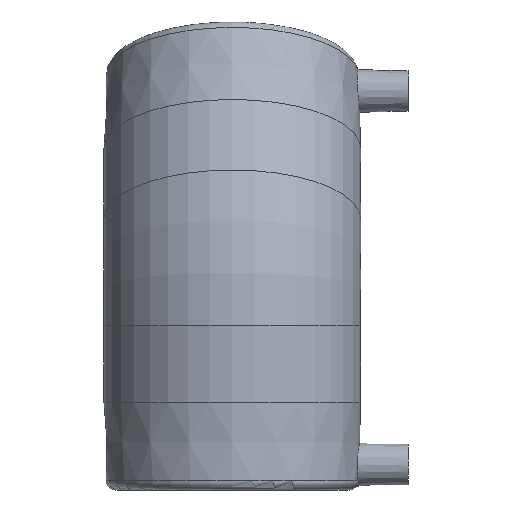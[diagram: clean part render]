
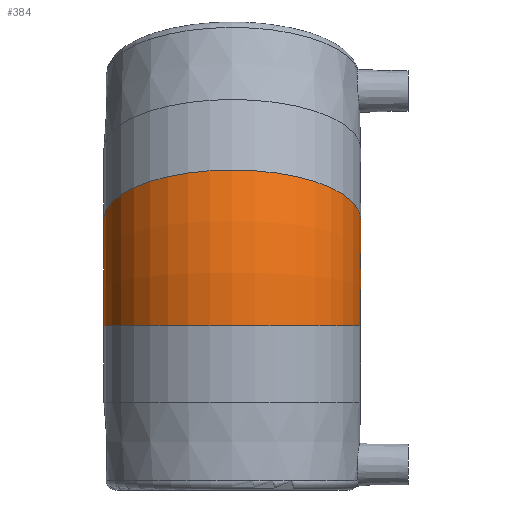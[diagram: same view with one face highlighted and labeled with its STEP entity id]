
A CAD part, left-side view. The second image highlights one B-rep face of the part: STEP entity #384.
In plain terms, the highlighted toroidal (fillet/blend) face has major radius 120.656 mm and minor radius 55.5 mm.
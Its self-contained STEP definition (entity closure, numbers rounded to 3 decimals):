
#37=TOROIDAL_SURFACE('',#447,120.656,55.5);
#99=ORIENTED_EDGE('',*,*,#152,.T.);
#100=ORIENTED_EDGE('',*,*,#154,.F.);
#152=EDGE_CURVE('',#189,#189,#219,.F.);
#154=EDGE_CURVE('',#191,#191,#221,.F.);
#189=VERTEX_POINT('',#700);
#191=VERTEX_POINT('',#706);
#219=CIRCLE('',#444,55.5);
#221=CIRCLE('',#448,55.5);
#266=EDGE_LOOP('',(#99));
#267=EDGE_LOOP('',(#100));
#327=FACE_BOUND('',#266,.T.);
#328=FACE_BOUND('',#267,.T.);
#384=ADVANCED_FACE('',(#327,#328),#37,.T.);
#444=AXIS2_PLACEMENT_3D('',#699,#540,#541);
#447=AXIS2_PLACEMENT_3D('',#704,#546,#547);
#448=AXIS2_PLACEMENT_3D('',#705,#548,#549);
#540=DIRECTION('',(0.,0.,-1.));
#541=DIRECTION('',(1.,0.,0.));
#546=DIRECTION('',(0.,1.,0.));
#547=DIRECTION('',(0.,0.,1.));
#548=DIRECTION('',(-0.383,0.,-0.924));
#549=DIRECTION('',(0.924,0.,-0.383));
#699=CARTESIAN_POINT('',(0.,0.,-24.));
#700=CARTESIAN_POINT('',(55.5,0.,-24.));
#704=CARTESIAN_POINT('',(120.656,0.,-24.));
#705=CARTESIAN_POINT('',(9.184,0.,22.173));
#706=CARTESIAN_POINT('',(60.46,0.,0.934));
